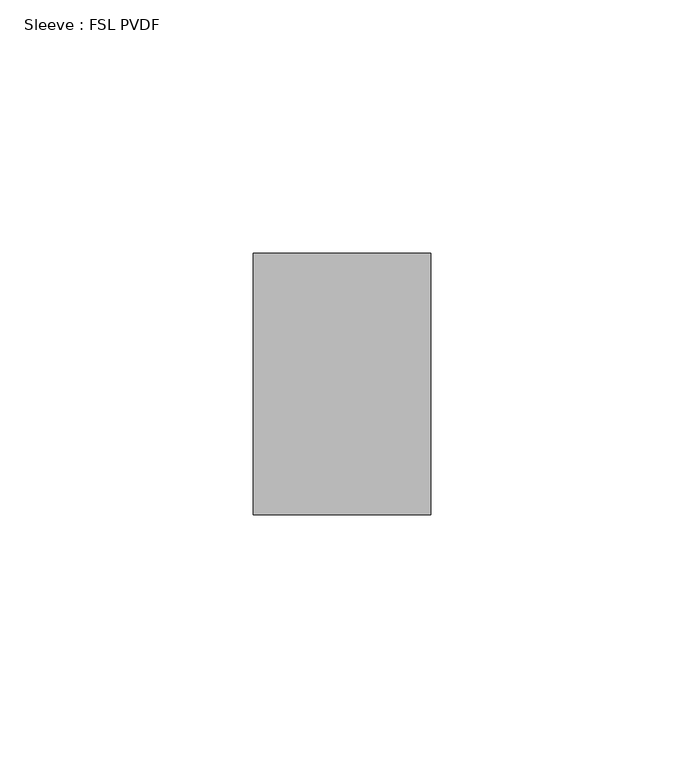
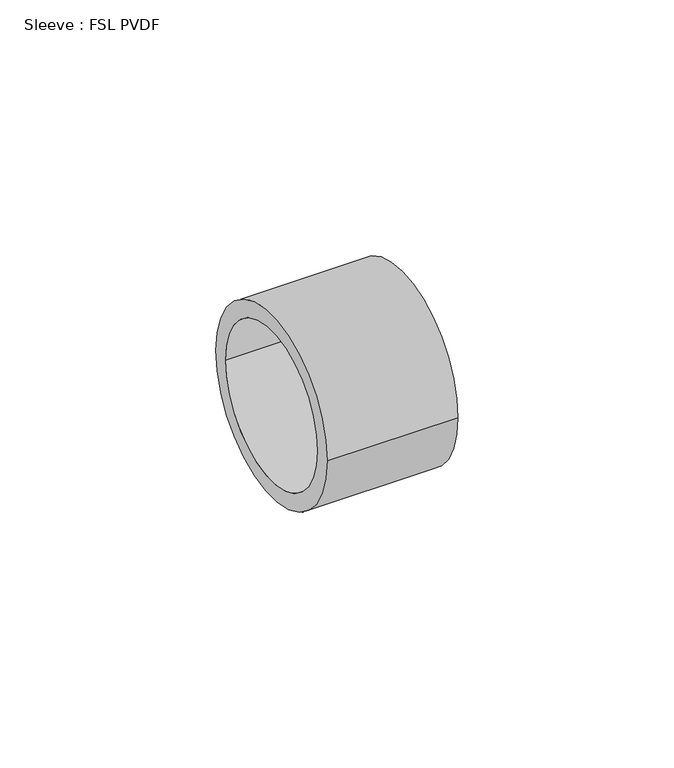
"""IFC4 building model written with IfcOpenShell, lengths in millimetres: pipe fitting geometry, Sleeve : FSL PVDF."""

from ifc_helpers import new_model, si_unit, point, frame, origin, origin_2d, place, context, project, spatial, circle_curve, trimmed, segment, composite_curve, outline, extrude, source, transform, mapped, element, save


def sleeve_fsl_pvdf_bb947688(model_context):
    return source(origin(), model_context, "Body", "SweptSolid", [
        extrude(outline(composite_curve([segment(trimmed(circle_curve(origin_2d(), 25.8), [point((-25.8, 0.0))], [point((25.8, 0.0))], False, "CARTESIAN"), True, "CONTINUOUS"), segment(trimmed(circle_curve(origin_2d(), 25.8), [point((25.8, 0.0))], [point((-25.8, 0.0))], False, "CARTESIAN"), True, "CONTINUOUS")], self_intersect=False), holes=[composite_curve([segment(trimmed(circle_curve(origin_2d(), 21.25), [point((-21.25, 0.0))], [point((21.25, 0.0))], True, "CARTESIAN"), True, "CONTINUOUS"), segment(trimmed(circle_curve(origin_2d(), 21.25), [point((21.25, 0.0))], [point((-21.25, 0.0))], True, "CARTESIAN"), True, "CONTINUOUS")], self_intersect=False)]), frame((0.0, 0.0, 0.0), z_axis=(1.0, 0.0, 0.0), x_axis=(0.0, 1.0, 0.0)), (0.0, 0.0, 1.0), 35.0),
    ])


if __name__ == "__main__":
    model = new_model("IFC4")
    model_context = context("Model", 3, world=origin())
    ifc_project = project(units=[si_unit("LENGTHUNIT", "METRE", prefix="MILLI")], contexts=[model_context])
    site = spatial("IfcSite", under=ifc_project)
    building = spatial("IfcBuilding", under=site)
    placement = place(None, origin())
    sleeve_fsl_pvdf_shape = sleeve_fsl_pvdf_bb947688(model_context)
    element("IfcPipeFitting", 1, ObjectType="Sleeve : FSL PVDF", at=placement, inside=building, context=model_context, shape_type="MappedRepresentation", body=[
        mapped(sleeve_fsl_pvdf_shape, transform((0.0, 0.0, 0.0), x_axis=(1.0, 0.0, 0.0), y_axis=(0.0, 1.0, 0.0), z_axis=(0.0, 0.0, 1.0))),
    ])
    save(model, "model.ifc")
